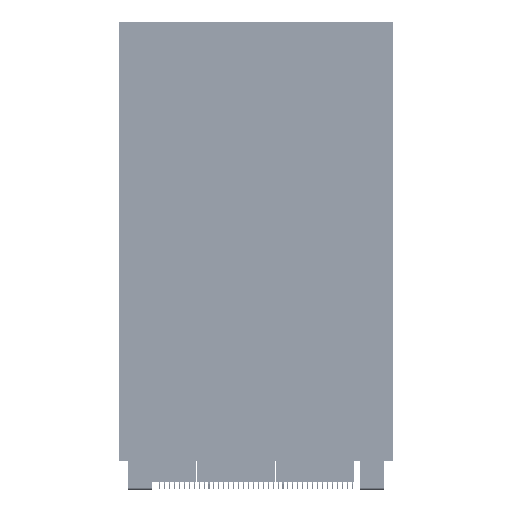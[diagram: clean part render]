
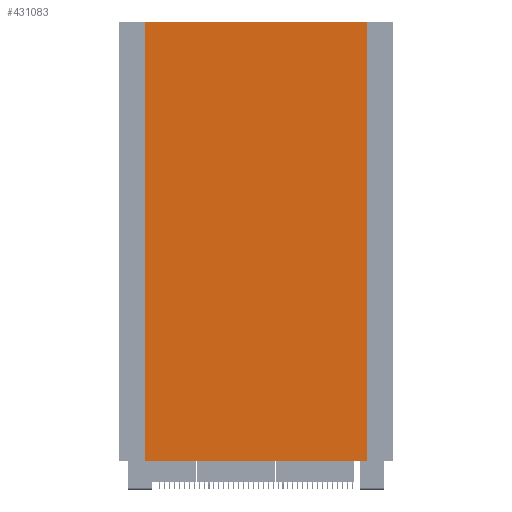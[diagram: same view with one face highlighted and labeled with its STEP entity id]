
A CAD part, front view. The second image highlights one B-rep face of the part: STEP entity #431083.
In plain terms, the highlighted planar face has unit normal (0, -1, 0).
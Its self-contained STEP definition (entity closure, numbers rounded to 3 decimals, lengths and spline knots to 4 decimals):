
#13251 = CARTESIAN_POINT ( 'NONE',  ( -1.5985, -0.755, -6.2992 ) ) ;
#36878 = CARTESIAN_POINT ( 'NONE',  ( 1.5985, -0.755, -6.2992 ) ) ;
#52123 = CARTESIAN_POINT ( 'NONE',  ( 0., -0.755, 0. ) ) ;
#59248 = PLANE ( 'NONE',  #61549 ) ;
#61549 = AXIS2_PLACEMENT_3D ( 'NONE', #173814, #572166, #231073 ) ;
#84361 = VERTEX_POINT ( 'NONE', #270174 ) ;
#84675 = CARTESIAN_POINT ( 'NONE',  ( 0., -0.755, -6.2992 ) ) ;
#101428 = EDGE_CURVE ( 'NONE', #106958, #539508, #131438, .T. ) ;
#106958 = VERTEX_POINT ( 'NONE', #364015 ) ;
#131438 = LINE ( 'NONE', #84675, #701670 ) ;
#158955 = EDGE_CURVE ( 'NONE', #539508, #84361, #653825, .T. ) ;
#173814 = CARTESIAN_POINT ( 'NONE',  ( 0., -0.755, -6.2992 ) ) ;
#201409 = LINE ( 'NONE', #36878, #637882 ) ;
#231073 = DIRECTION ( 'NONE',  ( -1., 0., 0. ) ) ;
#240557 = CARTESIAN_POINT ( 'NONE',  ( 1.5985, -0.755, 0. ) ) ;
#258396 = ORIENTED_EDGE ( 'NONE', *, *, #371487, .T. ) ;
#270174 = CARTESIAN_POINT ( 'NONE',  ( -1.5985, -0.755, 0. ) ) ;
#306790 = ORIENTED_EDGE ( 'NONE', *, *, #158955, .F. ) ;
#342867 = ORIENTED_EDGE ( 'NONE', *, *, #101428, .F. ) ;
#343072 = EDGE_LOOP ( 'NONE', ( #712091, #306790, #342867, #258396 ) ) ;
#364015 = CARTESIAN_POINT ( 'NONE',  ( 1.5985, -0.755, -6.2992 ) ) ;
#371487 = EDGE_CURVE ( 'NONE', #106958, #501226, #201409, .T. ) ;
#425674 = DIRECTION ( 'NONE',  ( -1., 0., 0. ) ) ;
#431083 = ADVANCED_FACE ( 'NONE', ( #542991 ), #59248, .F. ) ;
#436855 = VECTOR ( 'NONE', #622253, 39.3701 ) ;
#501226 = VERTEX_POINT ( 'NONE', #240557 ) ;
#539508 = VERTEX_POINT ( 'NONE', #701892 ) ;
#542991 = FACE_OUTER_BOUND ( 'NONE', #343072, .T. ) ;
#572166 = DIRECTION ( 'NONE',  ( 0., 1., 0. ) ) ;
#591314 = EDGE_CURVE ( 'NONE', #501226, #84361, #606250, .T. ) ;
#606250 = LINE ( 'NONE', #52123, #436855 ) ;
#617957 = VECTOR ( 'NONE', #693073, 39.3701 ) ;
#622253 = DIRECTION ( 'NONE',  ( -1., 0., 0. ) ) ;
#637882 = VECTOR ( 'NONE', #719142, 39.3701 ) ;
#653825 = LINE ( 'NONE', #13251, #617957 ) ;
#693073 = DIRECTION ( 'NONE',  ( 0., 0., 1. ) ) ;
#701670 = VECTOR ( 'NONE', #425674, 39.3701 ) ;
#701892 = CARTESIAN_POINT ( 'NONE',  ( -1.5985, -0.755, -6.2992 ) ) ;
#712091 = ORIENTED_EDGE ( 'NONE', *, *, #591314, .T. ) ;
#719142 = DIRECTION ( 'NONE',  ( 0., 0., 1. ) ) ;
